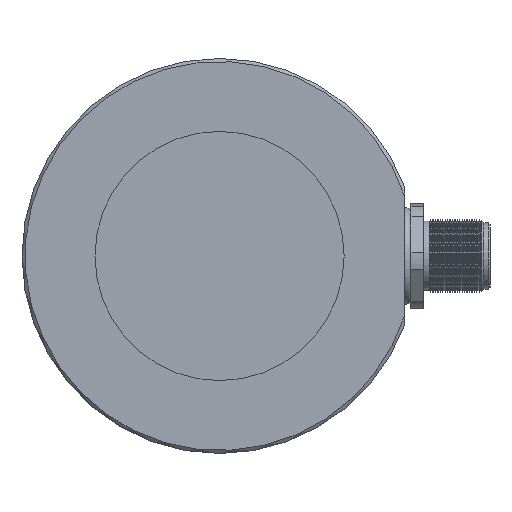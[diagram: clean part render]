
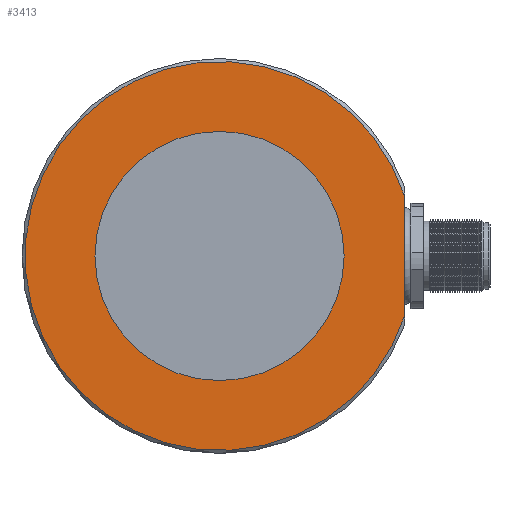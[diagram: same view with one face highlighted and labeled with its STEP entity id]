
A CAD part, left-side view. The second image highlights one B-rep face of the part: STEP entity #3413.
In plain terms, the highlighted planar face has unit normal (-1, 0, 0).
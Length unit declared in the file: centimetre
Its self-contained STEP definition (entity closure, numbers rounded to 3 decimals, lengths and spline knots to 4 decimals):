
#482=VECTOR('',#4096,1.);
#620=LINE('',#5377,#482);
#763=PLANE('',#3694);
#886=VERTEX_POINT('',#5376);
#887=VERTEX_POINT('',#5378);
#908=VERTEX_POINT('',#5456);
#1152=CIRCLE('',#3653,3.2);
#1156=CIRCLE('',#3661,2.05);
#1419=EDGE_CURVE('',#887,#886,#620,.T.);
#1442=EDGE_CURVE('',#887,#886,#1152,.T.);
#1446=EDGE_CURVE('',#908,#908,#1156,.T.);
#2127=ORIENTED_EDGE('',*,*,#1442,.F.);
#2128=ORIENTED_EDGE('',*,*,#1419,.T.);
#2129=ORIENTED_EDGE('',*,*,#1446,.T.);
#2711=EDGE_LOOP('',(#2127,#2128));
#2712=EDGE_LOOP('',(#2129));
#3067=FACE_BOUND('',#2711,.T.);
#3068=FACE_BOUND('',#2712,.T.);
#3413=ADVANCED_FACE('',(#3067,#3068),#763,.F.);
#3653=AXIS2_PLACEMENT_3D('',#5445,#4125,#4126);
#3661=AXIS2_PLACEMENT_3D('',#5455,#4140,#4141);
#3694=AXIS2_PLACEMENT_3D('',#5653,#4215,$);
#4096=DIRECTION('',(0.,0.,1.));
#4125=DIRECTION('',(1.,0.,0.));
#4126=DIRECTION('',(0.,3.2,0.));
#4140=DIRECTION('',(1.,0.,0.));
#4141=DIRECTION('',(0.,0.,-2.05));
#4215=DIRECTION('',(1.,0.,0.));
#5376=CARTESIAN_POINT('',(-3.765,-3.05,0.9682));
#5377=CARTESIAN_POINT('',(-3.765,-3.05,0.));
#5378=CARTESIAN_POINT('',(-3.765,-3.05,-0.9682));
#5445=CARTESIAN_POINT('',(-3.765,0.,0.));
#5455=CARTESIAN_POINT('',(-3.765,0.,0.));
#5456=CARTESIAN_POINT('',(-3.765,0.,-2.05));
#5653=CARTESIAN_POINT('',(-3.765,0.,0.));
